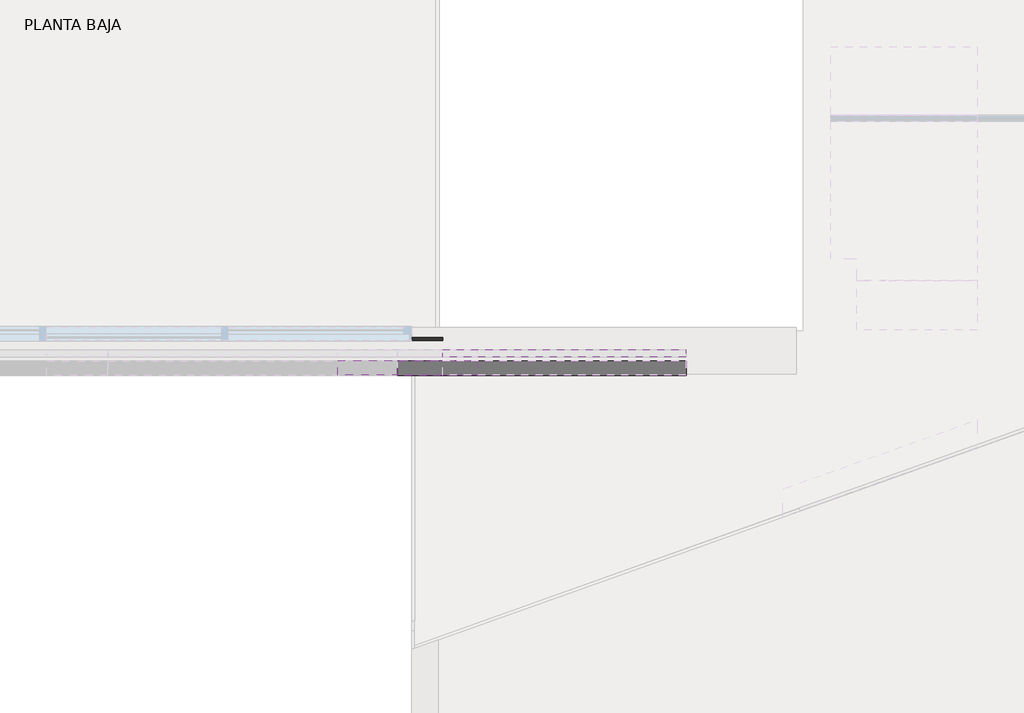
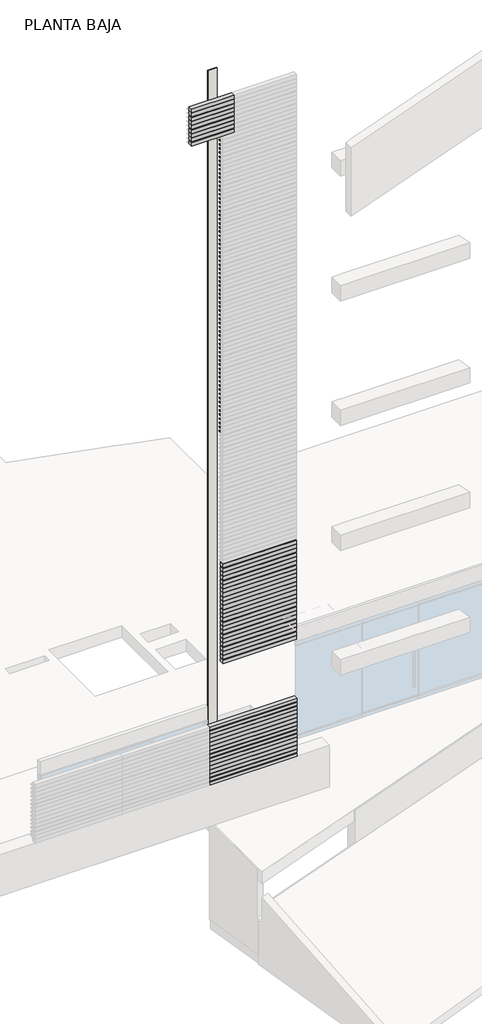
# One storey, part 3 of 8: 81 members, 48 plates, 1 wall.
"""IFC4 building model written with IfcOpenShell, lengths in millimetres."""

from ifc_helpers import new_model, si_unit, origin, place, context, project, spatial, faceted_brep, transform, mapped, element, save
from components import montante_rectangular_montante_rectangular_1_5x5_73253757, plate_31059733, plate_64fcae3b, plate_4e62c2e7

model = new_model("IFC4")

# Units and contexts
model_context = context("Model", 3, world=origin())
ifc_project = project(units=[si_unit("LENGTHUNIT", "METRE", prefix="MILLI")], contexts=[model_context])

# Site, building, storey
site = spatial("IfcSite", under=ifc_project)
building = spatial("IfcBuilding", under=site)
storey = spatial("IfcBuildingStorey", under=building, Name="PLANTA BAJA", Elevation=0.0)

# Members
placement = place(None, origin())
montante_rectangular_montante_rectangular_1_5x5_shape = montante_rectangular_montante_rectangular_1_5x5_73253757(model_context)
element("IfcMember", 1, ObjectType="Montante rectangular : Montante rectangular - 1.5x5", at=placement, inside=storey, context=model_context, shape_type="MappedRepresentation", body=[
    mapped(montante_rectangular_montante_rectangular_1_5x5_shape, transform((40444.5059119, 25044.0111729, 9310.1821192), x_axis=(0.0, 0.0, 1.0), y_axis=(0.0, 1.0, 0.0), z_axis=(-1.0, 0.0, 0.0))),
])
element("IfcMember", 2, ObjectType="Montante rectangular : Montante rectangular - 1.5x5", at=placement, inside=storey, context=model_context, shape_type="MappedRepresentation", body=[
    mapped(montante_rectangular_montante_rectangular_1_5x5_shape, transform((40444.5059119, 25044.0111729, 9410.1490066), x_axis=(0.0, 0.0, 1.0), y_axis=(0.0, 1.0, 0.0), z_axis=(-1.0, 0.0, 0.0))),
])
element("IfcMember", 3, ObjectType="Montante rectangular : Montante rectangular - 1.5x5", at=placement, inside=storey, context=model_context, shape_type="MappedRepresentation", body=[
    mapped(montante_rectangular_montante_rectangular_1_5x5_shape, transform((40444.5059119, 25044.0111729, 9510.115894), x_axis=(0.0, 0.0, 1.0), y_axis=(0.0, 1.0, 0.0), z_axis=(-1.0, 0.0, 0.0))),
])
element("IfcMember", 4, ObjectType="Montante rectangular : Montante rectangular - 1.5x5", at=placement, inside=storey, context=model_context, shape_type="MappedRepresentation", body=[
    mapped(montante_rectangular_montante_rectangular_1_5x5_shape, transform((40444.5059119, 25044.0111729, 9610.0827815), x_axis=(0.0, 0.0, 1.0), y_axis=(0.0, 1.0, 0.0), z_axis=(-1.0, 0.0, 0.0))),
])
element("IfcMember", 5, ObjectType="Montante rectangular : Montante rectangular - 1.5x5", at=placement, inside=storey, context=model_context, shape_type="MappedRepresentation", body=[
    mapped(montante_rectangular_montante_rectangular_1_5x5_shape, transform((40444.5059119, 25044.0111729, 9710.0496689), x_axis=(0.0, 0.0, 1.0), y_axis=(0.0, 1.0, 0.0), z_axis=(-1.0, 0.0, 0.0))),
])
element("IfcMember", 6, ObjectType="Montante rectangular : Montante rectangular - 1.5x5", at=placement, inside=storey, context=model_context, shape_type="MappedRepresentation", body=[
    mapped(montante_rectangular_montante_rectangular_1_5x5_shape, transform((40444.5059119, 25044.0111729, 9810.0165563), x_axis=(0.0, 0.0, 1.0), y_axis=(0.0, 1.0, 0.0), z_axis=(-1.0, 0.0, 0.0))),
])
element("IfcMember", 7, ObjectType="Montante rectangular : Montante rectangular - 1.5x5", at=placement, inside=storey, context=model_context, shape_type="MappedRepresentation", body=[
    mapped(montante_rectangular_montante_rectangular_1_5x5_shape, transform((40444.5059119, 25044.0111729, 9909.9834437), x_axis=(0.0, 0.0, 1.0), y_axis=(0.0, 1.0, 0.0), z_axis=(-1.0, 0.0, 0.0))),
])
element("IfcMember", 8, ObjectType="Montante rectangular : Montante rectangular - 1.5x5", at=placement, inside=storey, context=model_context, shape_type="MappedRepresentation", body=[
    mapped(montante_rectangular_montante_rectangular_1_5x5_shape, transform((40444.5059119, 25044.0111729, 10009.9503311), x_axis=(0.0, 0.0, 1.0), y_axis=(0.0, 1.0, 0.0), z_axis=(-1.0, 0.0, 0.0))),
])
element("IfcMember", 9, ObjectType="Montante rectangular : Montante rectangular - 1.5x5", at=placement, inside=storey, context=model_context, shape_type="MappedRepresentation", body=[
    mapped(montante_rectangular_montante_rectangular_1_5x5_shape, transform((40444.5059119, 25044.0111729, 10109.9172185), x_axis=(0.0, 0.0, 1.0), y_axis=(0.0, 1.0, 0.0), z_axis=(-1.0, 0.0, 0.0))),
])
element("IfcMember", 10, ObjectType="Montante rectangular : Montante rectangular - 1.5x5", at=placement, inside=storey, context=model_context, shape_type="MappedRepresentation", body=[
    mapped(montante_rectangular_montante_rectangular_1_5x5_shape, transform((40444.5059119, 25044.0111729, 10209.884106), x_axis=(0.0, 0.0, 1.0), y_axis=(0.0, 1.0, 0.0), z_axis=(-1.0, 0.0, 0.0))),
])
element("IfcMember", 11, ObjectType="Montante rectangular : Montante rectangular - 1.5x5", at=placement, inside=storey, context=model_context, shape_type="MappedRepresentation", body=[
    mapped(montante_rectangular_montante_rectangular_1_5x5_shape, transform((40444.5059119, 25044.0111729, 10309.8509934), x_axis=(0.0, 0.0, 1.0), y_axis=(0.0, 1.0, 0.0), z_axis=(-1.0, 0.0, 0.0))),
])
element("IfcMember", 12, ObjectType="Montante rectangular : Montante rectangular - 1.5x5", at=placement, inside=storey, context=model_context, shape_type="MappedRepresentation", body=[
    mapped(montante_rectangular_montante_rectangular_1_5x5_shape, transform((40444.5059119, 25044.0111729, 10409.8178808), x_axis=(0.0, 0.0, 1.0), y_axis=(0.0, 1.0, 0.0), z_axis=(-1.0, 0.0, 0.0))),
])
element("IfcMember", 13, ObjectType="Montante rectangular : Montante rectangular - 1.5x5", at=placement, inside=storey, context=model_context, shape_type="MappedRepresentation", body=[
    mapped(montante_rectangular_montante_rectangular_1_5x5_shape, transform((40444.5059119, 25044.0111729, 10509.7847682), x_axis=(0.0, 0.0, 1.0), y_axis=(0.0, 1.0, 0.0), z_axis=(-1.0, 0.0, 0.0))),
])
element("IfcMember", 14, ObjectType="Montante rectangular : Montante rectangular - 1.5x5", at=placement, inside=storey, context=model_context, shape_type="MappedRepresentation", body=[
    mapped(montante_rectangular_montante_rectangular_1_5x5_shape, transform((40444.5059119, 25044.0111729, 10609.7516556), x_axis=(0.0, 0.0, 1.0), y_axis=(0.0, 1.0, 0.0), z_axis=(-1.0, 0.0, 0.0))),
])
element("IfcMember", 15, ObjectType="Montante rectangular : Montante rectangular - 1.5x5", at=placement, inside=storey, context=model_context, shape_type="MappedRepresentation", body=[
    mapped(montante_rectangular_montante_rectangular_1_5x5_shape, transform((40444.5059119, 25044.0111729, 10709.718543), x_axis=(0.0, 0.0, 1.0), y_axis=(0.0, 1.0, 0.0), z_axis=(-1.0, 0.0, 0.0))),
])
element("IfcMember", 16, ObjectType="Montante rectangular : Montante rectangular - 1.5x5", at=placement, inside=storey, context=model_context, shape_type="MappedRepresentation", body=[
    mapped(montante_rectangular_montante_rectangular_1_5x5_shape, transform((40444.5059119, 25044.0111729, 10809.6854305), x_axis=(0.0, 0.0, 1.0), y_axis=(0.0, 1.0, 0.0), z_axis=(-1.0, 0.0, 0.0))),
])
element("IfcMember", 17, ObjectType="Montante rectangular : Montante rectangular - 1.5x5", at=placement, inside=storey, context=model_context, shape_type="MappedRepresentation", body=[
    mapped(montante_rectangular_montante_rectangular_1_5x5_shape, transform((40444.5059119, 25044.0111729, 10909.6523179), x_axis=(0.0, 0.0, 1.0), y_axis=(0.0, 1.0, 0.0), z_axis=(-1.0, 0.0, 0.0))),
])
element("IfcMember", 18, ObjectType="Montante rectangular : Montante rectangular - 1.5x5", at=placement, inside=storey, context=model_context, shape_type="MappedRepresentation", body=[
    mapped(montante_rectangular_montante_rectangular_1_5x5_shape, transform((40444.5059119, 25044.0111729, 11009.6192053), x_axis=(0.0, 0.0, 1.0), y_axis=(0.0, 1.0, 0.0), z_axis=(-1.0, 0.0, 0.0))),
])
element("IfcMember", 19, ObjectType="Montante rectangular : Montante rectangular - 1.5x5", at=placement, inside=storey, context=model_context, shape_type="MappedRepresentation", body=[
    mapped(montante_rectangular_montante_rectangular_1_5x5_shape, transform((40444.5059119, 25044.0111729, 11109.5860927), x_axis=(0.0, 0.0, 1.0), y_axis=(0.0, 1.0, 0.0), z_axis=(-1.0, 0.0, 0.0))),
])
element("IfcMember", 20, ObjectType="Montante rectangular : Montante rectangular - 1.5x5", at=placement, inside=storey, context=model_context, shape_type="MappedRepresentation", body=[
    mapped(montante_rectangular_montante_rectangular_1_5x5_shape, transform((40444.5059119, 25044.0111729, 11209.5529801), x_axis=(0.0, 0.0, 1.0), y_axis=(0.0, 1.0, 0.0), z_axis=(-1.0, 0.0, 0.0))),
])
element("IfcMember", 21, ObjectType="Montante rectangular : Montante rectangular - 1.5x5", at=placement, inside=storey, context=model_context, shape_type="MappedRepresentation", body=[
    mapped(montante_rectangular_montante_rectangular_1_5x5_shape, transform((40444.5059119, 25044.0111729, 11309.5198675), x_axis=(0.0, 0.0, 1.0), y_axis=(0.0, 1.0, 0.0), z_axis=(-1.0, 0.0, 0.0))),
])
element("IfcMember", 22, ObjectType="Montante rectangular : Montante rectangular - 1.5x5", at=placement, inside=storey, context=model_context, shape_type="MappedRepresentation", body=[
    mapped(montante_rectangular_montante_rectangular_1_5x5_shape, transform((40444.5059119, 25044.0111729, 11409.486755), x_axis=(0.0, 0.0, 1.0), y_axis=(0.0, 1.0, 0.0), z_axis=(-1.0, 0.0, 0.0))),
])
element("IfcMember", 23, ObjectType="Montante rectangular : Montante rectangular - 1.5x5", at=placement, inside=storey, context=model_context, shape_type="MappedRepresentation", body=[
    mapped(montante_rectangular_montante_rectangular_1_5x5_shape, transform((40444.5059119, 25044.0111729, 11509.4536424), x_axis=(0.0, 0.0, 1.0), y_axis=(0.0, 1.0, 0.0), z_axis=(-1.0, 0.0, 0.0))),
])
element("IfcMember", 24, ObjectType="Montante rectangular : Montante rectangular - 1.5x5", at=placement, inside=storey, context=model_context, shape_type="MappedRepresentation", body=[
    mapped(montante_rectangular_montante_rectangular_1_5x5_shape, transform((40444.5059119, 25044.0111729, 11609.4205298), x_axis=(0.0, 0.0, 1.0), y_axis=(0.0, 1.0, 0.0), z_axis=(-1.0, 0.0, 0.0))),
])
element("IfcMember", 25, ObjectType="Montante rectangular : Montante rectangular - 1.5x5", at=placement, inside=storey, context=model_context, shape_type="MappedRepresentation", body=[
    mapped(montante_rectangular_montante_rectangular_1_5x5_shape, transform((40444.5059119, 25044.0111729, 11709.3874172), x_axis=(0.0, 0.0, 1.0), y_axis=(0.0, 1.0, 0.0), z_axis=(-1.0, 0.0, 0.0))),
])
element("IfcMember", 26, ObjectType="Montante rectangular : Montante rectangular - 1.5x5", at=placement, inside=storey, context=model_context, shape_type="MappedRepresentation", body=[
    mapped(montante_rectangular_montante_rectangular_1_5x5_shape, transform((40444.5059119, 25044.0111729, 11809.3543046), x_axis=(0.0, 0.0, 1.0), y_axis=(0.0, 1.0, 0.0), z_axis=(-1.0, 0.0, 0.0))),
])
element("IfcMember", 27, ObjectType="Montante rectangular : Montante rectangular - 1.5x5", at=placement, inside=storey, context=model_context, shape_type="MappedRepresentation", body=[
    mapped(montante_rectangular_montante_rectangular_1_5x5_shape, transform((40444.5059119, 25044.0111729, 11909.3211921), x_axis=(0.0, 0.0, 1.0), y_axis=(0.0, 1.0, 0.0), z_axis=(-1.0, 0.0, 0.0))),
])
element("IfcMember", 28, ObjectType="Montante rectangular : Montante rectangular - 1.5x5", at=placement, inside=storey, context=model_context, shape_type="MappedRepresentation", body=[
    mapped(montante_rectangular_montante_rectangular_1_5x5_shape, transform((40444.5059119, 25044.0111729, 12009.2880795), x_axis=(0.0, 0.0, 1.0), y_axis=(0.0, 1.0, 0.0), z_axis=(-1.0, 0.0, 0.0))),
])
element("IfcMember", 29, ObjectType="Montante rectangular : Montante rectangular - 1.5x5", at=placement, inside=storey, context=model_context, shape_type="MappedRepresentation", body=[
    mapped(montante_rectangular_montante_rectangular_1_5x5_shape, transform((40444.5059119, 25044.0111729, 12109.2549669), x_axis=(0.0, 0.0, 1.0), y_axis=(0.0, 1.0, 0.0), z_axis=(-1.0, 0.0, 0.0))),
])
element("IfcMember", 30, ObjectType="Montante rectangular : Montante rectangular - 1.5x5", at=placement, inside=storey, context=model_context, shape_type="MappedRepresentation", body=[
    mapped(montante_rectangular_montante_rectangular_1_5x5_shape, transform((40444.5059119, 25044.0111729, 12209.2218543), x_axis=(0.0, 0.0, 1.0), y_axis=(0.0, 1.0, 0.0), z_axis=(-1.0, 0.0, 0.0))),
])
element("IfcMember", 31, ObjectType="Montante rectangular : Montante rectangular - 1.5x5", at=placement, inside=storey, context=model_context, shape_type="MappedRepresentation", body=[
    mapped(montante_rectangular_montante_rectangular_1_5x5_shape, transform((40444.5059119, 25044.0111729, 12309.1887417), x_axis=(0.0, 0.0, 1.0), y_axis=(0.0, 1.0, 0.0), z_axis=(-1.0, 0.0, 0.0))),
])
element("IfcMember", 32, ObjectType="Montante rectangular : Montante rectangular - 1.5x5", at=placement, inside=storey, context=model_context, shape_type="MappedRepresentation", body=[
    mapped(montante_rectangular_montante_rectangular_1_5x5_shape, transform((40444.5059119, 25044.0111729, 12409.1556291), x_axis=(0.0, 0.0, 1.0), y_axis=(0.0, 1.0, 0.0), z_axis=(-1.0, 0.0, 0.0))),
])
element("IfcMember", 33, ObjectType="Montante rectangular : Montante rectangular - 1.5x5", at=placement, inside=storey, context=model_context, shape_type="MappedRepresentation", body=[
    mapped(montante_rectangular_montante_rectangular_1_5x5_shape, transform((40444.5059119, 25044.0111729, 12509.1225166), x_axis=(0.0, 0.0, 1.0), y_axis=(0.0, 1.0, 0.0), z_axis=(-1.0, 0.0, 0.0))),
])
element("IfcMember", 34, ObjectType="Montante rectangular : Montante rectangular - 1.5x5", at=placement, inside=storey, context=model_context, shape_type="MappedRepresentation", body=[
    mapped(montante_rectangular_montante_rectangular_1_5x5_shape, transform((40444.5059119, 25044.0111729, 12609.089404), x_axis=(0.0, 0.0, 1.0), y_axis=(0.0, 1.0, 0.0), z_axis=(-1.0, 0.0, 0.0))),
])
element("IfcMember", 35, ObjectType="Montante rectangular : Montante rectangular - 1.5x5", at=placement, inside=storey, context=model_context, shape_type="MappedRepresentation", body=[
    mapped(montante_rectangular_montante_rectangular_1_5x5_shape, transform((40444.5059119, 25044.0111729, 12709.0562914), x_axis=(0.0, 0.0, 1.0), y_axis=(0.0, 1.0, 0.0), z_axis=(-1.0, 0.0, 0.0))),
])
element("IfcMember", 36, ObjectType="Montante rectangular : Montante rectangular - 1.5x5", at=placement, inside=storey, context=model_context, shape_type="MappedRepresentation", body=[
    mapped(montante_rectangular_montante_rectangular_1_5x5_shape, transform((40444.5059119, 25044.0111729, 12809.0231788), x_axis=(0.0, 0.0, 1.0), y_axis=(0.0, 1.0, 0.0), z_axis=(-1.0, 0.0, 0.0))),
])
element("IfcMember", 37, ObjectType="Montante rectangular : Montante rectangular - 1.5x5", at=placement, inside=storey, context=model_context, shape_type="MappedRepresentation", body=[
    mapped(montante_rectangular_montante_rectangular_1_5x5_shape, transform((40444.5059119, 25044.0111729, 12908.9900662), x_axis=(0.0, 0.0, 1.0), y_axis=(0.0, 1.0, 0.0), z_axis=(-1.0, 0.0, 0.0))),
])
element("IfcMember", 38, ObjectType="Montante rectangular : Montante rectangular - 1.5x5", at=placement, inside=storey, context=model_context, shape_type="MappedRepresentation", body=[
    mapped(montante_rectangular_montante_rectangular_1_5x5_shape, transform((40444.5059119, 25044.0111729, 13008.9569536), x_axis=(0.0, 0.0, 1.0), y_axis=(0.0, 1.0, 0.0), z_axis=(-1.0, 0.0, 0.0))),
])
element("IfcMember", 39, ObjectType="Montante rectangular : Montante rectangular - 1.5x5", at=placement, inside=storey, context=model_context, shape_type="MappedRepresentation", body=[
    mapped(montante_rectangular_montante_rectangular_1_5x5_shape, transform((40444.5059119, 25044.0111729, 13108.9238411), x_axis=(0.0, 0.0, 1.0), y_axis=(0.0, 1.0, 0.0), z_axis=(-1.0, 0.0, 0.0))),
])
element("IfcMember", 40, ObjectType="Montante rectangular : Montante rectangular - 1.5x5", at=placement, inside=storey, context=model_context, shape_type="MappedRepresentation", body=[
    mapped(montante_rectangular_montante_rectangular_1_5x5_shape, transform((40444.5059119, 25044.0111729, 13208.8907285), x_axis=(0.0, 0.0, 1.0), y_axis=(0.0, 1.0, 0.0), z_axis=(-1.0, 0.0, 0.0))),
])
element("IfcMember", 41, ObjectType="Montante rectangular : Montante rectangular - 1.5x5", at=placement, inside=storey, context=model_context, shape_type="MappedRepresentation", body=[
    mapped(montante_rectangular_montante_rectangular_1_5x5_shape, transform((40444.5059119, 25044.0111729, 13308.8576159), x_axis=(0.0, 0.0, 1.0), y_axis=(0.0, 1.0, 0.0), z_axis=(-1.0, 0.0, 0.0))),
])
element("IfcMember", 42, ObjectType="Montante rectangular : Montante rectangular - 1.5x5", at=placement, inside=storey, context=model_context, shape_type="MappedRepresentation", body=[
    mapped(montante_rectangular_montante_rectangular_1_5x5_shape, transform((40444.5059119, 25044.0111729, 13408.8245033), x_axis=(0.0, 0.0, 1.0), y_axis=(0.0, 1.0, 0.0), z_axis=(-1.0, 0.0, 0.0))),
])
element("IfcMember", 43, ObjectType="Montante rectangular : Montante rectangular - 1.5x5", at=placement, inside=storey, context=model_context, shape_type="MappedRepresentation", body=[
    mapped(montante_rectangular_montante_rectangular_1_5x5_shape, transform((40444.5059119, 25044.0111729, 13508.7913907), x_axis=(0.0, 0.0, 1.0), y_axis=(0.0, 1.0, 0.0), z_axis=(-1.0, 0.0, 0.0))),
])
element("IfcMember", 44, ObjectType="Montante rectangular : Montante rectangular - 1.5x5", at=placement, inside=storey, context=model_context, shape_type="MappedRepresentation", body=[
    mapped(montante_rectangular_montante_rectangular_1_5x5_shape, transform((40444.5059119, 25044.0111729, 13608.7582781), x_axis=(0.0, 0.0, 1.0), y_axis=(0.0, 1.0, 0.0), z_axis=(-1.0, 0.0, 0.0))),
])
element("IfcMember", 45, ObjectType="Montante rectangular : Montante rectangular - 1.5x5", at=placement, inside=storey, context=model_context, shape_type="MappedRepresentation", body=[
    mapped(montante_rectangular_montante_rectangular_1_5x5_shape, transform((40444.5059119, 25044.0111729, 13708.7251656), x_axis=(0.0, 0.0, 1.0), y_axis=(0.0, 1.0, 0.0), z_axis=(-1.0, 0.0, 0.0))),
])
element("IfcMember", 46, ObjectType="Montante rectangular : Montante rectangular - 1.5x5", at=placement, inside=storey, context=model_context, shape_type="MappedRepresentation", body=[
    mapped(montante_rectangular_montante_rectangular_1_5x5_shape, transform((40444.5059119, 25044.0111729, 13808.692053), x_axis=(0.0, 0.0, 1.0), y_axis=(0.0, 1.0, 0.0), z_axis=(-1.0, 0.0, 0.0))),
])
element("IfcMember", 47, ObjectType="Montante rectangular : Montante rectangular - 1.5x5", at=placement, inside=storey, context=model_context, shape_type="MappedRepresentation", body=[
    mapped(montante_rectangular_montante_rectangular_1_5x5_shape, transform((40444.5059119, 25044.0111729, 13908.6589404), x_axis=(0.0, 0.0, 1.0), y_axis=(0.0, 1.0, 0.0), z_axis=(-1.0, 0.0, 0.0))),
])
element("IfcMember", 48, ObjectType="Montante rectangular : Montante rectangular - 1.5x5", at=placement, inside=storey, context=model_context, shape_type="MappedRepresentation", body=[
    mapped(montante_rectangular_montante_rectangular_1_5x5_shape, transform((40444.5059119, 25044.0111729, 14008.6258278), x_axis=(0.0, 0.0, 1.0), y_axis=(0.0, 1.0, 0.0), z_axis=(-1.0, 0.0, 0.0))),
])
element("IfcMember", 49, ObjectType="Montante rectangular : Montante rectangular - 1.5x5", at=placement, inside=storey, context=model_context, shape_type="MappedRepresentation", body=[
    mapped(montante_rectangular_montante_rectangular_1_5x5_shape, transform((40444.5059119, 25044.0111729, 14108.5927152), x_axis=(0.0, 0.0, 1.0), y_axis=(0.0, 1.0, 0.0), z_axis=(-1.0, 0.0, 0.0))),
])
element("IfcMember", 50, ObjectType="Montante rectangular : Montante rectangular - 1.5x5", at=placement, inside=storey, context=model_context, shape_type="MappedRepresentation", body=[
    mapped(montante_rectangular_montante_rectangular_1_5x5_shape, transform((40444.5059119, 25044.0111729, 14208.5596026), x_axis=(0.0, 0.0, 1.0), y_axis=(0.0, 1.0, 0.0), z_axis=(-1.0, 0.0, 0.0))),
])
element("IfcMember", 51, ObjectType="Montante rectangular : Montante rectangular - 1.5x5", at=placement, inside=storey, context=model_context, shape_type="MappedRepresentation", body=[
    mapped(montante_rectangular_montante_rectangular_1_5x5_shape, transform((40444.5059119, 25044.0111729, 14308.5264901), x_axis=(0.0, 0.0, 1.0), y_axis=(0.0, 1.0, 0.0), z_axis=(-1.0, 0.0, 0.0))),
])
element("IfcMember", 52, ObjectType="Montante rectangular : Montante rectangular - 1.5x5", at=placement, inside=storey, context=model_context, shape_type="MappedRepresentation", body=[
    mapped(montante_rectangular_montante_rectangular_1_5x5_shape, transform((40444.5059119, 25044.0111729, 14408.4933775), x_axis=(0.0, 0.0, 1.0), y_axis=(0.0, 1.0, 0.0), z_axis=(-1.0, 0.0, 0.0))),
])
element("IfcMember", 53, ObjectType="Montante rectangular : Montante rectangular - 1.5x5", at=placement, inside=storey, context=model_context, shape_type="MappedRepresentation", body=[
    mapped(montante_rectangular_montante_rectangular_1_5x5_shape, transform((40444.5059119, 25044.0111729, 14508.4602649), x_axis=(0.0, 0.0, 1.0), y_axis=(0.0, 1.0, 0.0), z_axis=(-1.0, 0.0, 0.0))),
])
element("IfcMember", 54, ObjectType="Montante rectangular : Montante rectangular - 1.5x5", at=placement, inside=storey, context=model_context, shape_type="MappedRepresentation", body=[
    mapped(montante_rectangular_montante_rectangular_1_5x5_shape, transform((40444.5059119, 25044.0111729, 14608.4271523), x_axis=(0.0, 0.0, 1.0), y_axis=(0.0, 1.0, 0.0), z_axis=(-1.0, 0.0, 0.0))),
])
element("IfcMember", 55, ObjectType="Montante rectangular : Montante rectangular - 1.5x5", at=placement, inside=storey, context=model_context, shape_type="MappedRepresentation", body=[
    mapped(montante_rectangular_montante_rectangular_1_5x5_shape, transform((40444.5059119, 25044.0111729, 14708.3940397), x_axis=(0.0, 0.0, 1.0), y_axis=(0.0, 1.0, 0.0), z_axis=(-1.0, 0.0, 0.0))),
])
element("IfcMember", 56, ObjectType="Montante rectangular : Montante rectangular - 1.5x5", at=placement, inside=storey, context=model_context, shape_type="MappedRepresentation", body=[
    mapped(montante_rectangular_montante_rectangular_1_5x5_shape, transform((40444.5059119, 25044.0111729, 14808.3609272), x_axis=(0.0, 0.0, 1.0), y_axis=(0.0, 1.0, 0.0), z_axis=(-1.0, 0.0, 0.0))),
])
element("IfcMember", 57, ObjectType="Montante rectangular : Montante rectangular - 1.5x5", at=placement, inside=storey, context=model_context, shape_type="MappedRepresentation", body=[
    mapped(montante_rectangular_montante_rectangular_1_5x5_shape, transform((40444.5059119, 25044.0111729, 14908.3278146), x_axis=(0.0, 0.0, 1.0), y_axis=(0.0, 1.0, 0.0), z_axis=(-1.0, 0.0, 0.0))),
])
element("IfcMember", 58, ObjectType="Montante rectangular : Montante rectangular - 1.5x5", at=placement, inside=storey, context=model_context, shape_type="MappedRepresentation", body=[
    mapped(montante_rectangular_montante_rectangular_1_5x5_shape, transform((40444.5059119, 25044.0111729, 15008.294702), x_axis=(0.0, 0.0, 1.0), y_axis=(0.0, 1.0, 0.0), z_axis=(-1.0, 0.0, 0.0))),
])
element("IfcMember", 59, ObjectType="Montante rectangular : Montante rectangular - 1.5x5", at=placement, inside=storey, context=model_context, shape_type="MappedRepresentation", body=[
    mapped(montante_rectangular_montante_rectangular_1_5x5_shape, transform((40444.5059119, 25044.0111729, 15108.2615894), x_axis=(0.0, 0.0, 1.0), y_axis=(0.0, 1.0, 0.0), z_axis=(-1.0, 0.0, 0.0))),
])
element("IfcMember", 60, ObjectType="Montante rectangular : Montante rectangular - 1.5x5", at=placement, inside=storey, context=model_context, shape_type="MappedRepresentation", body=[
    mapped(montante_rectangular_montante_rectangular_1_5x5_shape, transform((40444.5059119, 25044.0111729, 15208.2284768), x_axis=(0.0, 0.0, 1.0), y_axis=(0.0, 1.0, 0.0), z_axis=(-1.0, 0.0, 0.0))),
])
element("IfcMember", 61, ObjectType="Montante rectangular : Montante rectangular - 1.5x5", at=placement, inside=storey, context=model_context, shape_type="MappedRepresentation", body=[
    mapped(montante_rectangular_montante_rectangular_1_5x5_shape, transform((40444.5059119, 25044.0111729, 15308.1953642), x_axis=(0.0, 0.0, 1.0), y_axis=(0.0, 1.0, 0.0), z_axis=(-1.0, 0.0, 0.0))),
])
element("IfcMember", 62, ObjectType="Montante rectangular : Montante rectangular - 1.5x5", at=placement, inside=storey, context=model_context, shape_type="MappedRepresentation", body=[
    mapped(montante_rectangular_montante_rectangular_1_5x5_shape, transform((40444.5059119, 25044.0111729, 15408.1622517), x_axis=(0.0, 0.0, 1.0), y_axis=(0.0, 1.0, 0.0), z_axis=(-1.0, 0.0, 0.0))),
])
element("IfcMember", 63, ObjectType="Montante rectangular : Montante rectangular - 1.5x5", at=placement, inside=storey, context=model_context, shape_type="MappedRepresentation", body=[
    mapped(montante_rectangular_montante_rectangular_1_5x5_shape, transform((40444.5059119, 25044.0111729, 15508.1291391), x_axis=(0.0, 0.0, 1.0), y_axis=(0.0, 1.0, 0.0), z_axis=(-1.0, 0.0, 0.0))),
])
element("IfcMember", 64, ObjectType="Montante rectangular : Montante rectangular - 1.5x5", at=placement, inside=storey, context=model_context, shape_type="MappedRepresentation", body=[
    mapped(montante_rectangular_montante_rectangular_1_5x5_shape, transform((40444.5059119, 25044.0111729, 15608.0960265), x_axis=(0.0, 0.0, 1.0), y_axis=(0.0, 1.0, 0.0), z_axis=(-1.0, 0.0, 0.0))),
])
element("IfcMember", 65, ObjectType="Montante rectangular : Montante rectangular - 1.5x5", at=placement, inside=storey, context=model_context, shape_type="MappedRepresentation", body=[
    mapped(montante_rectangular_montante_rectangular_1_5x5_shape, transform((40444.5059119, 25044.0111729, 15708.0629139), x_axis=(0.0, 0.0, 1.0), y_axis=(0.0, 1.0, 0.0), z_axis=(-1.0, 0.0, 0.0))),
])
element("IfcMember", 66, ObjectType="Montante rectangular : Montante rectangular - 1.5x5", at=placement, inside=storey, context=model_context, shape_type="MappedRepresentation", body=[
    mapped(montante_rectangular_montante_rectangular_1_5x5_shape, transform((40444.5059119, 25044.0111729, 15808.0298013), x_axis=(0.0, 0.0, 1.0), y_axis=(0.0, 1.0, 0.0), z_axis=(-1.0, 0.0, 0.0))),
])
element("IfcMember", 67, ObjectType="Montante rectangular : Montante rectangular - 1.5x5", at=placement, inside=storey, context=model_context, shape_type="MappedRepresentation", body=[
    mapped(montante_rectangular_montante_rectangular_1_5x5_shape, transform((40444.5059119, 25044.0111729, 15907.9966887), x_axis=(0.0, 0.0, 1.0), y_axis=(0.0, 1.0, 0.0), z_axis=(-1.0, 0.0, 0.0))),
])
element("IfcMember", 68, ObjectType="Montante rectangular : Montante rectangular - 1.5x5", at=placement, inside=storey, context=model_context, shape_type="MappedRepresentation", body=[
    mapped(montante_rectangular_montante_rectangular_1_5x5_shape, transform((40444.5059119, 25044.0111729, 16007.9635762), x_axis=(0.0, 0.0, 1.0), y_axis=(0.0, 1.0, 0.0), z_axis=(-1.0, 0.0, 0.0))),
])
element("IfcMember", 69, ObjectType="Montante rectangular : Montante rectangular - 1.5x5", at=placement, inside=storey, context=model_context, shape_type="MappedRepresentation", body=[
    mapped(montante_rectangular_montante_rectangular_1_5x5_shape, transform((40444.5059119, 25044.0111729, 16107.9304636), x_axis=(0.0, 0.0, 1.0), y_axis=(0.0, 1.0, 0.0), z_axis=(-1.0, 0.0, 0.0))),
])
element("IfcMember", 70, ObjectType="Montante rectangular : Montante rectangular - 1.5x5", at=placement, inside=storey, context=model_context, shape_type="MappedRepresentation", body=[
    mapped(montante_rectangular_montante_rectangular_1_5x5_shape, transform((40444.5059119, 25044.0111729, 16207.897351), x_axis=(0.0, 0.0, 1.0), y_axis=(0.0, 1.0, 0.0), z_axis=(-1.0, 0.0, 0.0))),
])
element("IfcMember", 71, ObjectType="Montante rectangular : Montante rectangular - 1.5x5", at=placement, inside=storey, context=model_context, shape_type="MappedRepresentation", body=[
    mapped(montante_rectangular_montante_rectangular_1_5x5_shape, transform((40444.5059119, 25044.0111729, 16307.8642384), x_axis=(0.0, 0.0, 1.0), y_axis=(0.0, 1.0, 0.0), z_axis=(-1.0, 0.0, 0.0))),
])
element("IfcMember", 72, ObjectType="Montante rectangular : Montante rectangular - 1.5x5", at=placement, inside=storey, context=model_context, shape_type="MappedRepresentation", body=[
    mapped(montante_rectangular_montante_rectangular_1_5x5_shape, transform((40444.5059119, 25044.0111729, 16407.8311258), x_axis=(0.0, 0.0, 1.0), y_axis=(0.0, 1.0, 0.0), z_axis=(-1.0, 0.0, 0.0))),
])
element("IfcMember", 73, ObjectType="Montante rectangular : Montante rectangular - 1.5x5", at=placement, inside=storey, context=model_context, shape_type="MappedRepresentation", body=[
    mapped(montante_rectangular_montante_rectangular_1_5x5_shape, transform((40444.5059119, 25044.0111729, 16507.7980132), x_axis=(0.0, 0.0, 1.0), y_axis=(0.0, 1.0, 0.0), z_axis=(-1.0, 0.0, 0.0))),
])
element("IfcMember", 74, ObjectType="Montante rectangular : Montante rectangular - 1.5x5", at=placement, inside=storey, context=model_context, shape_type="MappedRepresentation", body=[
    mapped(montante_rectangular_montante_rectangular_1_5x5_shape, transform((40444.5059119, 25044.0111729, 16607.7649007), x_axis=(0.0, 0.0, 1.0), y_axis=(0.0, 1.0, 0.0), z_axis=(-1.0, 0.0, 0.0))),
])
element("IfcMember", 75, ObjectType="Montante rectangular : Montante rectangular - 1.5x5", at=placement, inside=storey, context=model_context, shape_type="MappedRepresentation", body=[
    mapped(montante_rectangular_montante_rectangular_1_5x5_shape, transform((40444.5059119, 25044.0111729, 16707.7317881), x_axis=(0.0, 0.0, 1.0), y_axis=(0.0, 1.0, 0.0), z_axis=(-1.0, 0.0, 0.0))),
])
element("IfcMember", 76, ObjectType="Montante rectangular : Montante rectangular - 1.5x5", at=placement, inside=storey, context=model_context, shape_type="MappedRepresentation", body=[
    mapped(montante_rectangular_montante_rectangular_1_5x5_shape, transform((40444.5059119, 25044.0111729, 16807.6986755), x_axis=(0.0, 0.0, 1.0), y_axis=(0.0, 1.0, 0.0), z_axis=(-1.0, 0.0, 0.0))),
])
element("IfcMember", 77, ObjectType="Montante rectangular : Montante rectangular - 1.5x5", at=placement, inside=storey, context=model_context, shape_type="MappedRepresentation", body=[
    mapped(montante_rectangular_montante_rectangular_1_5x5_shape, transform((40444.5059119, 25044.0111729, 16907.6655629), x_axis=(0.0, 0.0, 1.0), y_axis=(0.0, 1.0, 0.0), z_axis=(-1.0, 0.0, 0.0))),
])
element("IfcMember", 78, ObjectType="Montante rectangular : Montante rectangular - 1.5x5", at=placement, inside=storey, context=model_context, shape_type="MappedRepresentation", body=[
    mapped(montante_rectangular_montante_rectangular_1_5x5_shape, transform((40444.5059119, 25044.0111729, 17007.6324503), x_axis=(0.0, 0.0, 1.0), y_axis=(0.0, 1.0, 0.0), z_axis=(-1.0, 0.0, 0.0))),
])
element("IfcMember", 79, ObjectType="Montante rectangular : Montante rectangular - 1.5x5", at=placement, inside=storey, context=model_context, shape_type="MappedRepresentation", body=[
    mapped(montante_rectangular_montante_rectangular_1_5x5_shape, transform((40444.5059119, 25044.0111729, 17107.5993377), x_axis=(0.0, 0.0, 1.0), y_axis=(0.0, 1.0, 0.0), z_axis=(-1.0, 0.0, 0.0))),
])
element("IfcMember", 80, ObjectType="Montante rectangular : Montante rectangular - 1.5x5", at=placement, inside=storey, context=model_context, shape_type="MappedRepresentation", body=[
    mapped(montante_rectangular_montante_rectangular_1_5x5_shape, transform((40444.5059119, 25044.0111729, 17207.5662252), x_axis=(0.0, 0.0, 1.0), y_axis=(0.0, 1.0, 0.0), z_axis=(-1.0, 0.0, 0.0))),
])
element("IfcMember", 81, ObjectType="Montante rectangular : Montante rectangular - 1.5x5", at=placement, inside=storey, context=model_context, shape_type="MappedRepresentation", body=[
    mapped(montante_rectangular_montante_rectangular_1_5x5_shape, transform((40444.5059119, 25044.0111729, 17307.5331126), x_axis=(0.0, 0.0, 1.0), y_axis=(0.0, 1.0, 0.0), z_axis=(-1.0, 0.0, 0.0))),
])

# Plates
plate_shape = plate_31059733(model_context)
element("IfcPlate", 82, ObjectType="Panel del sistema vacío : Vacío", at=placement, inside=storey, context=model_context, shape_type="MappedRepresentation", body=[
    mapped(plate_shape, transform((40204.5059119, 25044.0111729, 16515.3), x_axis=(-1.0, 0.0, 0.0), y_axis=(0.0, -1.0, 0.0), z_axis=(0.0, 0.0, 1.0))),
])
element("IfcPlate", 83, ObjectType="Panel del sistema vacío : Vacío", at=placement, inside=storey, context=model_context, shape_type="MappedRepresentation", body=[
    mapped(plate_shape, transform((40204.5059119, 25044.0111729, 16615.2666667), x_axis=(-1.0, 0.0, 0.0), y_axis=(0.0, -1.0, 0.0), z_axis=(0.0, 0.0, 1.0))),
])
element("IfcPlate", 84, ObjectType="Panel del sistema vacío : Vacío", at=placement, inside=storey, context=model_context, shape_type="MappedRepresentation", body=[
    mapped(plate_shape, transform((40204.5059119, 25044.0111729, 16715.2333333), x_axis=(-1.0, 0.0, 0.0), y_axis=(0.0, -1.0, 0.0), z_axis=(0.0, 0.0, 1.0))),
])
element("IfcPlate", 85, ObjectType="Panel del sistema vacío : Vacío", at=placement, inside=storey, context=model_context, shape_type="MappedRepresentation", body=[
    mapped(plate_shape, transform((40204.5059119, 25044.0111729, 16815.2), x_axis=(-1.0, 0.0, 0.0), y_axis=(0.0, -1.0, 0.0), z_axis=(0.0, 0.0, 1.0))),
])
element("IfcPlate", 86, ObjectType="Panel del sistema vacío : Vacío", at=placement, inside=storey, context=model_context, shape_type="MappedRepresentation", body=[
    mapped(plate_shape, transform((40204.5059119, 25044.0111729, 16915.1666667), x_axis=(-1.0, 0.0, 0.0), y_axis=(0.0, -1.0, 0.0), z_axis=(0.0, 0.0, 1.0))),
])
element("IfcPlate", 87, ObjectType="Panel del sistema vacío : Vacío", at=placement, inside=storey, context=model_context, shape_type="MappedRepresentation", body=[
    mapped(plate_shape, transform((40204.5059119, 25044.0111729, 17015.1333333), x_axis=(-1.0, 0.0, 0.0), y_axis=(0.0, -1.0, 0.0), z_axis=(0.0, 0.0, 1.0))),
])
element("IfcPlate", 88, ObjectType="Panel del sistema vacío : Vacío", at=placement, inside=storey, context=model_context, shape_type="MappedRepresentation", body=[
    mapped(plate_shape, transform((40204.5059119, 25044.0111729, 17115.1), x_axis=(-1.0, 0.0, 0.0), y_axis=(0.0, -1.0, 0.0), z_axis=(0.0, 0.0, 1.0))),
])
element("IfcPlate", 89, ObjectType="Panel del sistema vacío : Vacío", at=placement, inside=storey, context=model_context, shape_type="MappedRepresentation", body=[
    mapped(plate_shape, transform((40204.5059119, 25044.0111729, 17215.0666667), x_axis=(-1.0, 0.0, 0.0), y_axis=(0.0, -1.0, 0.0), z_axis=(0.0, 0.0, 1.0))),
])
element("IfcPlate", 90, ObjectType="Panel del sistema vacío : Vacío", at=placement, inside=storey, context=model_context, shape_type="MappedRepresentation", body=[
    mapped(plate_shape, transform((40204.5059119, 25044.0111729, 17315.0333333), x_axis=(-1.0, 0.0, 0.0), y_axis=(0.0, -1.0, 0.0), z_axis=(0.0, 0.0, 1.0))),
])
plate_2_shape = plate_64fcae3b(model_context)
element("IfcPlate", 91, ObjectType="Panel del sistema vacío : Vacío", at=placement, inside=storey, context=model_context, shape_type="MappedRepresentation", body=[
    mapped(plate_2_shape, transform((41279.5059119, 25044.0111729, 3819.5033113), x_axis=(-1.0, 0.0, 0.0), y_axis=(0.0, -1.0, 0.0), z_axis=(0.0, 0.0, 1.0))),
])
element("IfcPlate", 92, ObjectType="Panel del sistema vacío : Vacío", at=placement, inside=storey, context=model_context, shape_type="MappedRepresentation", body=[
    mapped(plate_2_shape, transform((41279.5059119, 25044.0111729, 3919.4701987), x_axis=(-1.0, 0.0, 0.0), y_axis=(0.0, -1.0, 0.0), z_axis=(0.0, 0.0, 1.0))),
])
element("IfcPlate", 93, ObjectType="Panel del sistema vacío : Vacío", at=placement, inside=storey, context=model_context, shape_type="MappedRepresentation", body=[
    mapped(plate_2_shape, transform((41279.5059119, 25044.0111729, 4019.4370861), x_axis=(-1.0, 0.0, 0.0), y_axis=(0.0, -1.0, 0.0), z_axis=(0.0, 0.0, 1.0))),
])
element("IfcPlate", 94, ObjectType="Panel del sistema vacío : Vacío", at=placement, inside=storey, context=model_context, shape_type="MappedRepresentation", body=[
    mapped(plate_2_shape, transform((41279.5059119, 25044.0111729, 4119.4039735), x_axis=(-1.0, 0.0, 0.0), y_axis=(0.0, -1.0, 0.0), z_axis=(0.0, 0.0, 1.0))),
])
element("IfcPlate", 95, ObjectType="Panel del sistema vacío : Vacío", at=placement, inside=storey, context=model_context, shape_type="MappedRepresentation", body=[
    mapped(plate_2_shape, transform((41279.5059119, 25044.0111729, 4219.3708609), x_axis=(-1.0, 0.0, 0.0), y_axis=(0.0, -1.0, 0.0), z_axis=(0.0, 0.0, 1.0))),
])
element("IfcPlate", 96, ObjectType="Panel del sistema vacío : Vacío", at=placement, inside=storey, context=model_context, shape_type="MappedRepresentation", body=[
    mapped(plate_2_shape, transform((41279.5059119, 25044.0111729, 4319.3377483), x_axis=(-1.0, 0.0, 0.0), y_axis=(0.0, -1.0, 0.0), z_axis=(0.0, 0.0, 1.0))),
])
element("IfcPlate", 97, ObjectType="Panel del sistema vacío : Vacío", at=placement, inside=storey, context=model_context, shape_type="MappedRepresentation", body=[
    mapped(plate_2_shape, transform((41279.5059119, 25044.0111729, 4419.3046358), x_axis=(-1.0, 0.0, 0.0), y_axis=(0.0, -1.0, 0.0), z_axis=(0.0, 0.0, 1.0))),
])
element("IfcPlate", 98, ObjectType="Panel del sistema vacío : Vacío", at=placement, inside=storey, context=model_context, shape_type="MappedRepresentation", body=[
    mapped(plate_2_shape, transform((41279.5059119, 25044.0111729, 4519.2715232), x_axis=(-1.0, 0.0, 0.0), y_axis=(0.0, -1.0, 0.0), z_axis=(0.0, 0.0, 1.0))),
])
element("IfcPlate", 99, ObjectType="Panel del sistema vacío : Vacío", at=placement, inside=storey, context=model_context, shape_type="MappedRepresentation", body=[
    mapped(plate_2_shape, transform((41279.5059119, 25044.0111729, 4619.2384106), x_axis=(-1.0, 0.0, 0.0), y_axis=(0.0, -1.0, 0.0), z_axis=(0.0, 0.0, 1.0))),
])
element("IfcPlate", 100, ObjectType="Panel del sistema vacío : Vacío", at=placement, inside=storey, context=model_context, shape_type="MappedRepresentation", body=[
    mapped(plate_2_shape, transform((41279.5059119, 25044.0111729, 4719.205298), x_axis=(-1.0, 0.0, 0.0), y_axis=(0.0, -1.0, 0.0), z_axis=(0.0, 0.0, 1.0))),
])
element("IfcPlate", 101, ObjectType="Panel del sistema vacío : Vacío", at=placement, inside=storey, context=model_context, shape_type="MappedRepresentation", body=[
    mapped(plate_2_shape, transform((41279.5059119, 25044.0111729, 4819.1721854), x_axis=(-1.0, 0.0, 0.0), y_axis=(0.0, -1.0, 0.0), z_axis=(0.0, 0.0, 1.0))),
])
element("IfcPlate", 102, ObjectType="Panel del sistema vacío : Vacío", at=placement, inside=storey, context=model_context, shape_type="MappedRepresentation", body=[
    mapped(plate_2_shape, transform((41279.5059119, 25044.0111729, 4919.1390728), x_axis=(-1.0, 0.0, 0.0), y_axis=(0.0, -1.0, 0.0), z_axis=(0.0, 0.0, 1.0))),
])
element("IfcPlate", 103, ObjectType="Panel del sistema vacío : Vacío", at=placement, inside=storey, context=model_context, shape_type="MappedRepresentation", body=[
    mapped(plate_2_shape, transform((41279.5059119, 25044.0111729, 5019.1059603), x_axis=(-1.0, 0.0, 0.0), y_axis=(0.0, -1.0, 0.0), z_axis=(0.0, 0.0, 1.0))),
])
element("IfcPlate", 104, ObjectType="Panel del sistema vacío : Vacío", at=placement, inside=storey, context=model_context, shape_type="MappedRepresentation", body=[
    mapped(plate_2_shape, transform((41279.5059119, 25044.0111729, 5119.0728477), x_axis=(-1.0, 0.0, 0.0), y_axis=(0.0, -1.0, 0.0), z_axis=(0.0, 0.0, 1.0))),
])
element("IfcPlate", 105, ObjectType="Panel del sistema vacío : Vacío", at=placement, inside=storey, context=model_context, shape_type="MappedRepresentation", body=[
    mapped(plate_2_shape, transform((41279.5059119, 25044.0111729, 5219.0397351), x_axis=(-1.0, 0.0, 0.0), y_axis=(0.0, -1.0, 0.0), z_axis=(0.0, 0.0, 1.0))),
])
element("IfcPlate", 106, ObjectType="Panel del sistema vacío : Vacío", at=placement, inside=storey, context=model_context, shape_type="MappedRepresentation", body=[
    mapped(plate_2_shape, transform((41279.5059119, 25044.0111729, 5319.0066225), x_axis=(-1.0, 0.0, 0.0), y_axis=(0.0, -1.0, 0.0), z_axis=(0.0, 0.0, 1.0))),
])
element("IfcPlate", 107, ObjectType="Panel del sistema vacío : Vacío", at=placement, inside=storey, context=model_context, shape_type="MappedRepresentation", body=[
    mapped(plate_2_shape, transform((41279.5059119, 25044.0111729, 5418.9735099), x_axis=(-1.0, 0.0, 0.0), y_axis=(0.0, -1.0, 0.0), z_axis=(0.0, 0.0, 1.0))),
])
element("IfcPlate", 108, ObjectType="Panel del sistema vacío : Vacío", at=placement, inside=storey, context=model_context, shape_type="MappedRepresentation", body=[
    mapped(plate_2_shape, transform((41279.5059119, 25044.0111729, 5518.9403974), x_axis=(-1.0, 0.0, 0.0), y_axis=(0.0, -1.0, 0.0), z_axis=(0.0, 0.0, 1.0))),
])
element("IfcPlate", 109, ObjectType="Panel del sistema vacío : Vacío", at=placement, inside=storey, context=model_context, shape_type="MappedRepresentation", body=[
    mapped(plate_2_shape, transform((41279.5059119, 25044.0111729, 5618.9072848), x_axis=(-1.0, 0.0, 0.0), y_axis=(0.0, -1.0, 0.0), z_axis=(0.0, 0.0, 1.0))),
])
element("IfcPlate", 110, ObjectType="Panel del sistema vacío : Vacío", at=placement, inside=storey, context=model_context, shape_type="MappedRepresentation", body=[
    mapped(plate_2_shape, transform((41279.5059119, 25044.0111729, 5718.8741722), x_axis=(-1.0, 0.0, 0.0), y_axis=(0.0, -1.0, 0.0), z_axis=(0.0, 0.0, 1.0))),
])
element("IfcPlate", 111, ObjectType="Panel del sistema vacío : Vacío", at=placement, inside=storey, context=model_context, shape_type="MappedRepresentation", body=[
    mapped(plate_2_shape, transform((41279.5059119, 25044.0111729, 5818.8410596), x_axis=(-1.0, 0.0, 0.0), y_axis=(0.0, -1.0, 0.0), z_axis=(0.0, 0.0, 1.0))),
])
element("IfcPlate", 112, ObjectType="Panel del sistema vacío : Vacío", at=placement, inside=storey, context=model_context, shape_type="MappedRepresentation", body=[
    mapped(plate_2_shape, transform((41279.5059119, 25044.0111729, 5918.807947), x_axis=(-1.0, 0.0, 0.0), y_axis=(0.0, -1.0, 0.0), z_axis=(0.0, 0.0, 1.0))),
])
element("IfcPlate", 113, ObjectType="Panel del sistema vacío : Vacío", at=placement, inside=storey, context=model_context, shape_type="MappedRepresentation", body=[
    mapped(plate_2_shape, transform((41279.5059119, 25044.0111729, 6018.7748344), x_axis=(-1.0, 0.0, 0.0), y_axis=(0.0, -1.0, 0.0), z_axis=(0.0, 0.0, 1.0))),
])
element("IfcPlate", 114, ObjectType="Panel del sistema vacío : Vacío", at=placement, inside=storey, context=model_context, shape_type="MappedRepresentation", body=[
    mapped(plate_2_shape, transform((41279.5059119, 25044.0111729, 6118.7417219), x_axis=(-1.0, 0.0, 0.0), y_axis=(0.0, -1.0, 0.0), z_axis=(0.0, 0.0, 1.0))),
])
plate_3_shape = plate_4e62c2e7(model_context)
element("IfcPlate", 115, ObjectType="Panel del sistema vacío : Vacío", at=placement, inside=storey, context=model_context, shape_type="MappedRepresentation", body=[
    mapped(plate_3_shape, transform((41125.5468475, 25044.0111729, 1000.0), x_axis=(-1.0, 0.0, 0.0), y_axis=(0.0, -1.0, 0.0), z_axis=(0.0, 0.0, 1.0))),
])
element("IfcPlate", 116, ObjectType="Panel del sistema vacío : Vacío", at=placement, inside=storey, context=model_context, shape_type="MappedRepresentation", body=[
    mapped(plate_3_shape, transform((41125.5468475, 25044.0111729, 1094.3333333), x_axis=(-1.0, 0.0, 0.0), y_axis=(0.0, -1.0, 0.0), z_axis=(0.0, 0.0, 1.0))),
])
element("IfcPlate", 117, ObjectType="Panel del sistema vacío : Vacío", at=placement, inside=storey, context=model_context, shape_type="MappedRepresentation", body=[
    mapped(plate_3_shape, transform((41125.5468475, 25044.0111729, 1188.6666667), x_axis=(-1.0, 0.0, 0.0), y_axis=(0.0, -1.0, 0.0), z_axis=(0.0, 0.0, 1.0))),
])
element("IfcPlate", 118, ObjectType="Panel del sistema vacío : Vacío", at=placement, inside=storey, context=model_context, shape_type="MappedRepresentation", body=[
    mapped(plate_3_shape, transform((41125.5468475, 25044.0111729, 1283.0), x_axis=(-1.0, 0.0, 0.0), y_axis=(0.0, -1.0, 0.0), z_axis=(0.0, 0.0, 1.0))),
])
element("IfcPlate", 119, ObjectType="Panel del sistema vacío : Vacío", at=placement, inside=storey, context=model_context, shape_type="MappedRepresentation", body=[
    mapped(plate_3_shape, transform((41125.5468475, 25044.0111729, 1377.3333333), x_axis=(-1.0, 0.0, 0.0), y_axis=(0.0, -1.0, 0.0), z_axis=(0.0, 0.0, 1.0))),
])
element("IfcPlate", 120, ObjectType="Panel del sistema vacío : Vacío", at=placement, inside=storey, context=model_context, shape_type="MappedRepresentation", body=[
    mapped(plate_3_shape, transform((41125.5468475, 25044.0111729, 1471.6666667), x_axis=(-1.0, 0.0, 0.0), y_axis=(0.0, -1.0, 0.0), z_axis=(0.0, 0.0, 1.0))),
])
element("IfcPlate", 121, ObjectType="Panel del sistema vacío : Vacío", at=placement, inside=storey, context=model_context, shape_type="MappedRepresentation", body=[
    mapped(plate_3_shape, transform((41125.5468475, 25044.0111729, 1566.0), x_axis=(-1.0, 0.0, 0.0), y_axis=(0.0, -1.0, 0.0), z_axis=(0.0, 0.0, 1.0))),
])
element("IfcPlate", 122, ObjectType="Panel del sistema vacío : Vacío", at=placement, inside=storey, context=model_context, shape_type="MappedRepresentation", body=[
    mapped(plate_3_shape, transform((41125.5468475, 25044.0111729, 1660.3333333), x_axis=(-1.0, 0.0, 0.0), y_axis=(0.0, -1.0, 0.0), z_axis=(0.0, 0.0, 1.0))),
])
element("IfcPlate", 123, ObjectType="Panel del sistema vacío : Vacío", at=placement, inside=storey, context=model_context, shape_type="MappedRepresentation", body=[
    mapped(plate_3_shape, transform((41125.5468475, 25044.0111729, 1754.6666667), x_axis=(-1.0, 0.0, 0.0), y_axis=(0.0, -1.0, 0.0), z_axis=(0.0, 0.0, 1.0))),
])
element("IfcPlate", 124, ObjectType="Panel del sistema vacío : Vacío", at=placement, inside=storey, context=model_context, shape_type="MappedRepresentation", body=[
    mapped(plate_3_shape, transform((41125.5468475, 25044.0111729, 1849.0), x_axis=(-1.0, 0.0, 0.0), y_axis=(0.0, -1.0, 0.0), z_axis=(0.0, 0.0, 1.0))),
])
element("IfcPlate", 125, ObjectType="Panel del sistema vacío : Vacío", at=placement, inside=storey, context=model_context, shape_type="MappedRepresentation", body=[
    mapped(plate_3_shape, transform((41125.5468475, 25044.0111729, 1943.3333333), x_axis=(-1.0, 0.0, 0.0), y_axis=(0.0, -1.0, 0.0), z_axis=(0.0, 0.0, 1.0))),
])
element("IfcPlate", 126, ObjectType="Panel del sistema vacío : Vacío", at=placement, inside=storey, context=model_context, shape_type="MappedRepresentation", body=[
    mapped(plate_3_shape, transform((41125.5468475, 25044.0111729, 2037.6666667), x_axis=(-1.0, 0.0, 0.0), y_axis=(0.0, -1.0, 0.0), z_axis=(0.0, 0.0, 1.0))),
])
element("IfcPlate", 127, ObjectType="Panel del sistema vacío : Vacío", at=placement, inside=storey, context=model_context, shape_type="MappedRepresentation", body=[
    mapped(plate_3_shape, transform((41125.5468475, 25044.0111729, 2132.0), x_axis=(-1.0, 0.0, 0.0), y_axis=(0.0, -1.0, 0.0), z_axis=(0.0, 0.0, 1.0))),
])
element("IfcPlate", 128, ObjectType="Panel del sistema vacío : Vacío", at=placement, inside=storey, context=model_context, shape_type="MappedRepresentation", body=[
    mapped(plate_3_shape, transform((41125.5468475, 25044.0111729, 2226.3333333), x_axis=(-1.0, 0.0, 0.0), y_axis=(0.0, -1.0, 0.0), z_axis=(0.0, 0.0, 1.0))),
])
element("IfcPlate", 129, ObjectType="Panel del sistema vacío : Vacío", at=placement, inside=storey, context=model_context, shape_type="MappedRepresentation", body=[
    mapped(plate_3_shape, transform((41125.5468475, 25044.0111729, 2320.6666667), x_axis=(-1.0, 0.0, 0.0), y_axis=(0.0, -1.0, 0.0), z_axis=(0.0, 0.0, 1.0))),
])

# Wall
element("IfcWall", 130, ObjectType="Muro solo enjarre -2cms", at=placement, inside=storey, context=model_context, shape_type="Brep", body=[
    faceted_brep([(40444.5059119, 25154.0112971, 0.0), (40234.5059119, 25154.0112971, 0.0), (40234.5059119, 25154.0112971, 1000.0), (40234.5059119, 25154.0112971, 17400.0), (40234.5059119, 25154.0112971, 18000.0), (40444.5059119, 25154.0112971, 18000.0), (40444.5059119, 25154.0112971, 17400.0), (40444.5059119, 25154.0112971, 1000.0), (40444.5059119, 25134.0112971, 0.0), (40444.5059119, 25134.0112971, 2400.0), (40444.5059119, 25134.0112971, 16000.0), (40444.5059119, 25134.0112971, 18000.0), (40234.5059119, 25134.0112971, 18000.0), (40234.5059119, 25134.0112971, 0.0)], [[[0, 1, 2, 3, 4, 5, 6, 7]], [[8, 9, 10, 11, 12, 13]], [[1, 0, 8, 13]], [[4, 3, 2, 1, 13, 12]], [[5, 4, 12, 11]], [[0, 7, 6, 5, 11, 10, 9, 8]]]),
])

save(model, "model.ifc")
